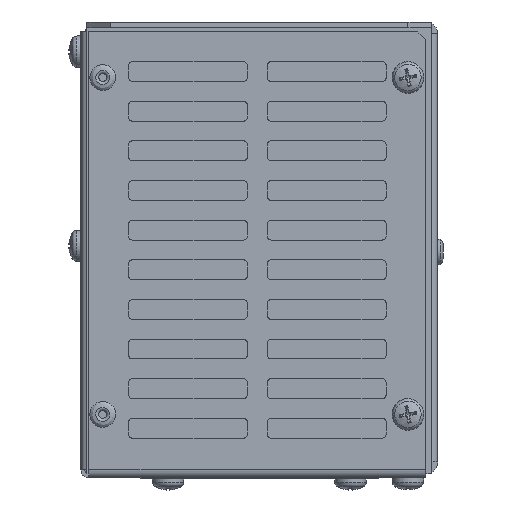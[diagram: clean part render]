
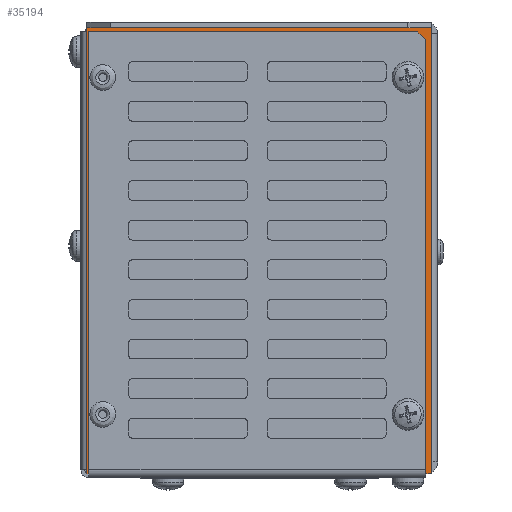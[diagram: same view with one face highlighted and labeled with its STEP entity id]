
A CAD part, left-side view. The second image highlights one B-rep face of the part: STEP entity #35194.
In plain terms, the highlighted planar face has unit normal (-1, 0, 0).
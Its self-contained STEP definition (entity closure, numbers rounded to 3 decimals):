
#1165=PLANE('',#37814);
#2390=FACE_OUTER_BOUND('',#4401,.T.);
#4401=EDGE_LOOP('',(#24642,#24643,#24644,#24645,#24646,#24647,#24648,#24649,
#24650,#24651,#24652,#24653,#24654));
#8144=LINE('',#51473,#11160);
#8178=LINE('',#51551,#11194);
#8213=LINE('',#51686,#11229);
#8409=LINE('',#52379,#11425);
#8449=LINE('',#52491,#11465);
#8652=LINE('',#54812,#11668);
#8777=LINE('',#55235,#11793);
#8778=LINE('',#55236,#11794);
#8779=LINE('',#55237,#11795);
#8780=LINE('',#55239,#11796);
#8781=LINE('',#55241,#11797);
#8782=LINE('',#55243,#11798);
#8783=LINE('',#55244,#11799);
#11160=VECTOR('',#40965,10.);
#11194=VECTOR('',#41015,10.);
#11229=VECTOR('',#41124,10.);
#11425=VECTOR('',#41682,10.);
#11465=VECTOR('',#41768,10.);
#11668=VECTOR('',#42801,10.);
#11793=VECTOR('',#43136,10.);
#11794=VECTOR('',#43137,10.);
#11795=VECTOR('',#43138,10.);
#11796=VECTOR('',#43139,10.);
#11797=VECTOR('',#43140,10.);
#11798=VECTOR('',#43141,10.);
#11799=VECTOR('',#43142,10.);
#14268=VERTEX_POINT('',#51470);
#14269=VERTEX_POINT('',#51472);
#14305=VERTEX_POINT('',#51549);
#14366=VERTEX_POINT('',#51682);
#14368=VERTEX_POINT('',#51685);
#14683=VERTEX_POINT('',#52377);
#14684=VERTEX_POINT('',#52378);
#14727=VERTEX_POINT('',#52490);
#15119=VERTEX_POINT('',#54811);
#15312=VERTEX_POINT('',#55234);
#15313=VERTEX_POINT('',#55238);
#15314=VERTEX_POINT('',#55240);
#15315=VERTEX_POINT('',#55242);
#17657=EDGE_CURVE('',#14268,#14269,#8144,.T.);
#17695=EDGE_CURVE('',#14268,#14305,#8178,.T.);
#17758=EDGE_CURVE('',#14368,#14366,#8213,.T.);
#18088=EDGE_CURVE('',#14683,#14684,#8409,.T.);
#18143=EDGE_CURVE('',#14366,#14727,#8449,.T.);
#18717=EDGE_CURVE('',#15119,#14684,#8652,.T.);
#18930=EDGE_CURVE('',#14305,#15312,#8777,.T.);
#18931=EDGE_CURVE('',#15119,#15312,#8778,.T.);
#18932=EDGE_CURVE('',#14368,#14683,#8779,.T.);
#18933=EDGE_CURVE('',#14727,#15313,#8780,.T.);
#18934=EDGE_CURVE('',#15314,#15313,#8781,.T.);
#18935=EDGE_CURVE('',#15315,#15314,#8782,.T.);
#18936=EDGE_CURVE('',#15315,#14269,#8783,.T.);
#24642=ORIENTED_EDGE('',*,*,#18930,.T.);
#24643=ORIENTED_EDGE('',*,*,#18931,.F.);
#24644=ORIENTED_EDGE('',*,*,#18717,.T.);
#24645=ORIENTED_EDGE('',*,*,#18088,.F.);
#24646=ORIENTED_EDGE('',*,*,#18932,.F.);
#24647=ORIENTED_EDGE('',*,*,#17758,.T.);
#24648=ORIENTED_EDGE('',*,*,#18143,.T.);
#24649=ORIENTED_EDGE('',*,*,#18933,.T.);
#24650=ORIENTED_EDGE('',*,*,#18934,.F.);
#24651=ORIENTED_EDGE('',*,*,#18935,.F.);
#24652=ORIENTED_EDGE('',*,*,#18936,.T.);
#24653=ORIENTED_EDGE('',*,*,#17657,.F.);
#24654=ORIENTED_EDGE('',*,*,#17695,.T.);
#35194=ADVANCED_FACE('',(#2390),#1165,.F.);
#37814=AXIS2_PLACEMENT_3D('',#55233,#43134,#43135);
#40965=DIRECTION('',(0.,0.,-1.));
#41015=DIRECTION('',(0.,1.,0.));
#41124=DIRECTION('',(0.,-1.,0.));
#41682=DIRECTION('',(0.,-1.,0.));
#41768=DIRECTION('',(0.,0.,1.));
#42801=DIRECTION('',(0.,0.,-1.));
#43134=DIRECTION('center_axis',(1.,0.,0.));
#43135=DIRECTION('ref_axis',(0.,0.,
-1.));
#43136=DIRECTION('',(0.,0.,1.));
#43137=DIRECTION('',(0.,-1.,0.));
#43138=DIRECTION('',(0.,0.,1.));
#43139=DIRECTION('',(0.,-1.,0.));
#43140=DIRECTION('',(0.,0.707,0.707));
#43141=DIRECTION('',(0.,0.,1.));
#43142=DIRECTION('',(0.,-1.,0.));
#51470=CARTESIAN_POINT('',(-75.,-48.5,-1.5));
#51472=CARTESIAN_POINT('',(-75.,-48.5,-114.));
#51473=CARTESIAN_POINT('',(-75.,-48.5,-114.));
#51549=CARTESIAN_POINT('',(-75.,-47.,-1.5));
#51551=CARTESIAN_POINT('',(-75.,-5.,-1.5));
#51682=CARTESIAN_POINT('',(-75.,38.,-114.));
#51685=CARTESIAN_POINT('',(-75.,38.5,-114.));
#51686=CARTESIAN_POINT('',(-75.,-5.,-114.));
#52377=CARTESIAN_POINT('',(-75.,38.5,-1.5));
#52378=CARTESIAN_POINT('',(-75.,-46.25,-1.5));
#52379=CARTESIAN_POINT('',(-75.,-5.,-1.5));
#52490=CARTESIAN_POINT('',(-75.,38.,-2.5));
#52491=CARTESIAN_POINT('',(-75.,38.,-85.375));
#54811=CARTESIAN_POINT('',(-75.,-46.25,0.));
#54812=CARTESIAN_POINT('',(-75.,-46.25,0.));
#55233=CARTESIAN_POINT('Origin',(-75.,-49.25,-55.5));
#55234=CARTESIAN_POINT('',(-75.,-47.,0.));
#55235=CARTESIAN_POINT('',(-75.,-47.,-28.5));
#55236=CARTESIAN_POINT('',(-75.,-27.5,0.));
#55237=CARTESIAN_POINT('',(-75.,38.5,-114.));
#55238=CARTESIAN_POINT('',(-75.,-45.,-2.5));
#55239=CARTESIAN_POINT('',(-75.,40.,-2.5));
#55240=CARTESIAN_POINT('',(-75.,-47.,-4.5));
#55241=CARTESIAN_POINT('',(-75.,-48.937,-6.437));
#55242=CARTESIAN_POINT('',(-75.,-47.,-114.));
#55243=CARTESIAN_POINT('',(-75.,-47.,-114.25));
#55244=CARTESIAN_POINT('',(-75.,-5.,-114.));
